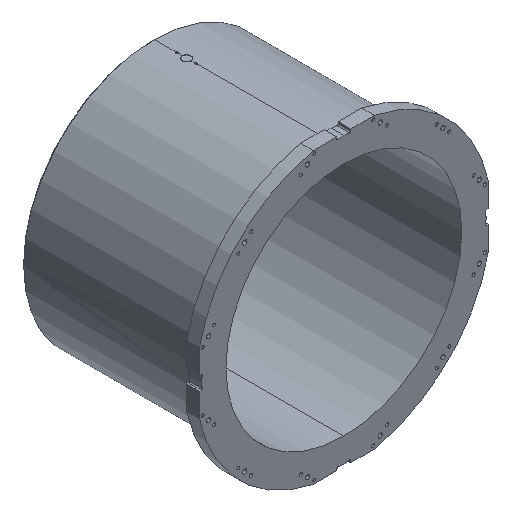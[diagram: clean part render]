
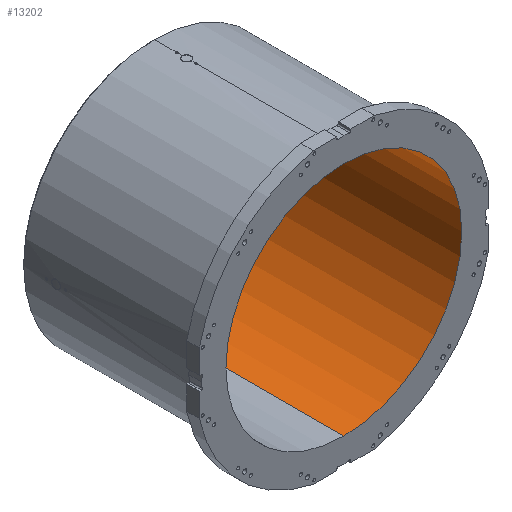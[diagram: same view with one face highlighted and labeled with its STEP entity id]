
A CAD part, isometric view. The second image highlights one B-rep face of the part: STEP entity #13202.
In plain terms, the highlighted cylindrical face has radius 555 mm (diameter 1110 mm), a partial arc.
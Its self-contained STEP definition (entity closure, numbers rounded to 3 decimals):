
#797 = DIRECTION ( 'NONE',  ( 0., 0., -1. ) ) ;
#1034 = VERTEX_POINT ( 'NONE', #4557 ) ;
#1192 = CARTESIAN_POINT ( 'NONE',  ( 0., 0., 0. ) ) ;
#1409 = VECTOR ( 'NONE', #13168, 1000. ) ;
#1868 = DIRECTION ( 'NONE',  ( 0., 1., 0. ) ) ;
#1987 = ORIENTED_EDGE ( 'NONE', *, *, #5875, .T. ) ;
#1988 = ORIENTED_EDGE ( 'NONE', *, *, #13729, .T. ) ;
#2062 = FACE_OUTER_BOUND ( 'NONE', #6801, .T. ) ;
#3110 = CYLINDRICAL_SURFACE ( 'NONE', #12531, 555. ) ;
#3144 = CARTESIAN_POINT ( 'NONE',  ( 0., 844., -555. ) ) ;
#3188 = DIRECTION ( 'NONE',  ( 0., 0., -1. ) ) ;
#3193 = ORIENTED_EDGE ( 'NONE', *, *, #12006, .T. ) ;
#4108 = LINE ( 'NONE', #9439, #9545 ) ;
#4165 = CIRCLE ( 'NONE', #11094, 555. ) ;
#4557 = CARTESIAN_POINT ( 'NONE',  ( 0., 0., -555. ) ) ;
#5377 = DIRECTION ( 'NONE',  ( 0., -1., 0. ) ) ;
#5875 = EDGE_CURVE ( 'NONE', #1034, #11880, #4165, .T. ) ;
#6315 = CARTESIAN_POINT ( 'NONE',  ( 0., 844., 555. ) ) ;
#6601 = EDGE_CURVE ( 'NONE', #12884, #11880, #4108, .T. ) ;
#6801 = EDGE_LOOP ( 'NONE', ( #13857, #3193, #1988, #1987 ) ) ;
#6835 = DIRECTION ( 'NONE',  ( 0., -1., 0. ) ) ;
#7274 = DIRECTION ( 'NONE',  ( 0., -1., 0. ) ) ;
#7437 = AXIS2_PLACEMENT_3D ( 'NONE', #10648, #1868, #797 ) ;
#7619 = VERTEX_POINT ( 'NONE', #3144 ) ;
#8406 = CARTESIAN_POINT ( 'NONE',  ( 0., 0., 0. ) ) ;
#9439 = CARTESIAN_POINT ( 'NONE',  ( 0., 0., 555. ) ) ;
#9545 = VECTOR ( 'NONE', #7274, 1000. ) ;
#10170 = CARTESIAN_POINT ( 'NONE',  ( 0., 0., -555. ) ) ;
#10498 = CARTESIAN_POINT ( 'NONE',  ( 0., 0., 555. ) ) ;
#10648 = CARTESIAN_POINT ( 'NONE',  ( 0., 844., 0. ) ) ;
#11094 = AXIS2_PLACEMENT_3D ( 'NONE', #1192, #6835, #12128 ) ;
#11215 = LINE ( 'NONE', #10170, #1409 ) ;
#11880 = VERTEX_POINT ( 'NONE', #10498 ) ;
#12006 = EDGE_CURVE ( 'NONE', #12884, #7619, #12117, .T. ) ;
#12117 = CIRCLE ( 'NONE', #7437, 555. ) ;
#12128 = DIRECTION ( 'NONE',  ( 0., 0., -1. ) ) ;
#12531 = AXIS2_PLACEMENT_3D ( 'NONE', #8406, #5377, #3188 ) ;
#12884 = VERTEX_POINT ( 'NONE', #6315 ) ;
#13168 = DIRECTION ( 'NONE',  ( 0., -1., 0. ) ) ;
#13202 = ADVANCED_FACE ( 'NONE', ( #2062 ), #3110, .F. ) ;
#13729 = EDGE_CURVE ( 'NONE', #7619, #1034, #11215, .T. ) ;
#13857 = ORIENTED_EDGE ( 'NONE', *, *, #6601, .F. ) ;
